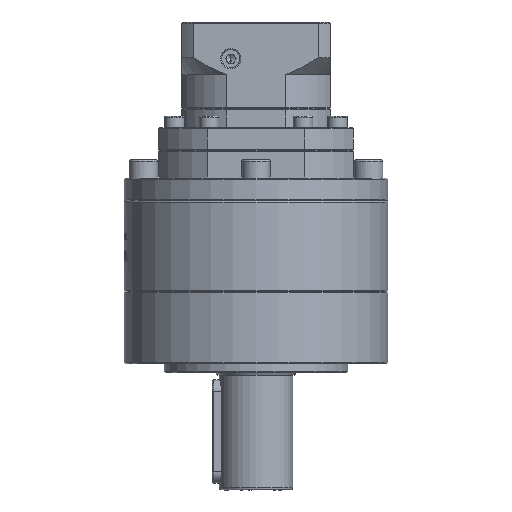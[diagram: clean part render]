
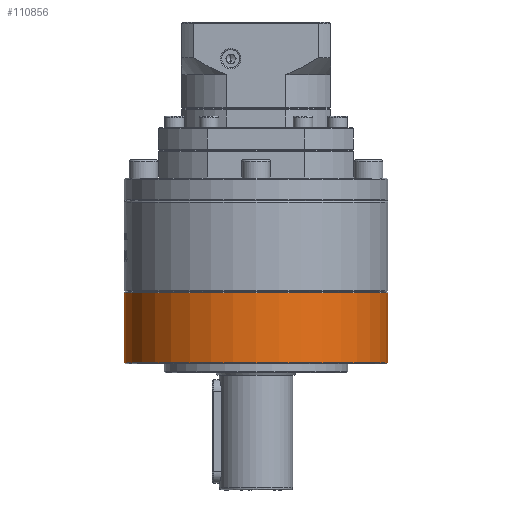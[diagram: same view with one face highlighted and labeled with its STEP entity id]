
A CAD part, left-side view. The second image highlights one B-rep face of the part: STEP entity #110856.
In plain terms, the highlighted cylindrical face has radius 57.5 mm (diameter 115 mm), a partial arc.
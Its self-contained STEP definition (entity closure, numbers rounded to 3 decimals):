
#5078 = DIRECTION ( 'NONE',  ( 0., 1., 0. ) ) ;
#5082 = VERTEX_POINT ( 'NONE', #16011 ) ;
#6217 = EDGE_CURVE ( 'NONE', #112507, #32480, #70039, .T. ) ;
#8362 = AXIS2_PLACEMENT_3D ( 'NONE', #31219, #100039, #41118 ) ;
#10149 = CARTESIAN_POINT ( 'NONE',  ( -77.262, 95.32, -117.903 ) ) ;
#16011 = CARTESIAN_POINT ( 'NONE',  ( -77.262, 95.32, -87.403 ) ) ;
#20217 = EDGE_CURVE ( 'NONE', #5082, #32480, #89984, .T. ) ;
#22515 = CYLINDRICAL_SURFACE ( 'NONE', #54947, 57.5 ) ;
#24413 = CARTESIAN_POINT ( 'NONE',  ( -77.262, -19.68, -105.403 ) ) ;
#24824 = CIRCLE ( 'NONE', #127727, 57.5 ) ;
#29157 = ORIENTED_EDGE ( 'NONE', *, *, #112361, .T. ) ;
#29882 = ORIENTED_EDGE ( 'NONE', *, *, #124296, .F. ) ;
#31219 = CARTESIAN_POINT ( 'NONE',  ( -77.262, 37.82, -87.403 ) ) ;
#32480 = VERTEX_POINT ( 'NONE', #94999 ) ;
#36684 = CARTESIAN_POINT ( 'NONE',  ( -77.262, -19.68, -117.903 ) ) ;
#40333 = DIRECTION ( 'NONE',  ( 0., 0., 1. ) ) ;
#40717 = VECTOR ( 'NONE', #64102, 1000. ) ;
#41118 = DIRECTION ( 'NONE',  ( 0., -1., 0. ) ) ;
#42803 = ORIENTED_EDGE ( 'NONE', *, *, #20217, .F. ) ;
#53826 = LINE ( 'NONE', #99253, #106176 ) ;
#54947 = AXIS2_PLACEMENT_3D ( 'NONE', #104881, #85571, #66172 ) ;
#64102 = DIRECTION ( 'NONE',  ( 0., 0., 1. ) ) ;
#64300 = DIRECTION ( 'NONE',  ( 0., 0., 1. ) ) ;
#66172 = DIRECTION ( 'NONE',  ( 0., 1., 0. ) ) ;
#70039 = LINE ( 'NONE', #24413, #40717 ) ;
#75762 = VERTEX_POINT ( 'NONE', #10149 ) ;
#80771 = ORIENTED_EDGE ( 'NONE', *, *, #6217, .T. ) ;
#84195 = FACE_OUTER_BOUND ( 'NONE', #100498, .T. ) ;
#85571 = DIRECTION ( 'NONE',  ( 0., 0., 1. ) ) ;
#89984 = CIRCLE ( 'NONE', #8362, 57.5 ) ;
#94999 = CARTESIAN_POINT ( 'NONE',  ( -77.262, -19.68, -87.403 ) ) ;
#99253 = CARTESIAN_POINT ( 'NONE',  ( -77.262, 95.32, -105.403 ) ) ;
#100039 = DIRECTION ( 'NONE',  ( 0., 0., 1. ) ) ;
#100498 = EDGE_LOOP ( 'NONE', ( #29157, #80771, #42803, #29882 ) ) ;
#104881 = CARTESIAN_POINT ( 'NONE',  ( -77.262, 37.82, -105.403 ) ) ;
#106176 = VECTOR ( 'NONE', #40333, 1000. ) ;
#110856 = ADVANCED_FACE ( 'NONE', ( #84195 ), #22515, .T. ) ;
#112361 = EDGE_CURVE ( 'NONE', #75762, #112507, #24824, .T. ) ;
#112507 = VERTEX_POINT ( 'NONE', #36684 ) ;
#123228 = CARTESIAN_POINT ( 'NONE',  ( -77.262, 37.82, -117.903 ) ) ;
#124296 = EDGE_CURVE ( 'NONE', #75762, #5082, #53826, .T. ) ;
#127727 = AXIS2_PLACEMENT_3D ( 'NONE', #123228, #64300, #5078 ) ;
